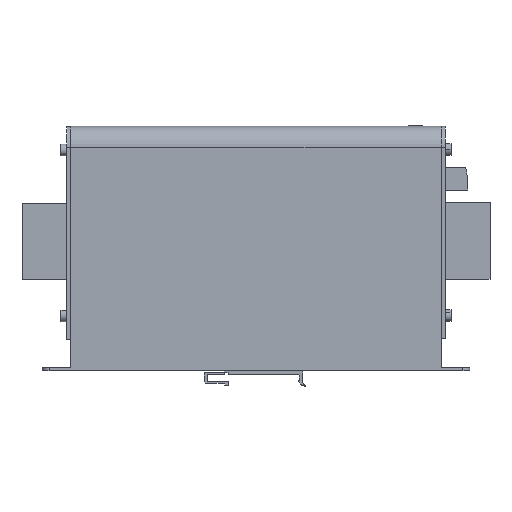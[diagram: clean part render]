
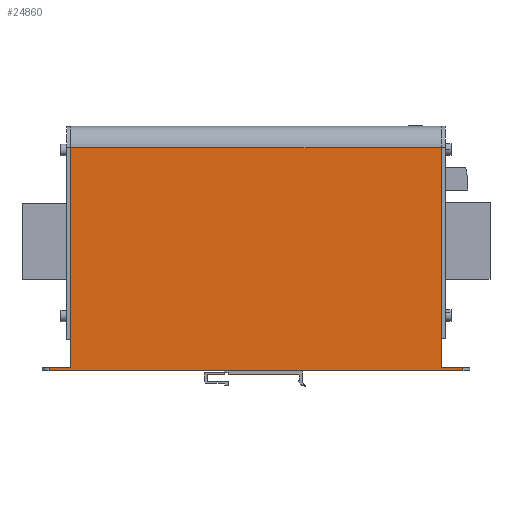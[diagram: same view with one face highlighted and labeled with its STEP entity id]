
A CAD part, left-side view. The second image highlights one B-rep face of the part: STEP entity #24860.
In plain terms, the highlighted planar face has unit normal (-1, 0, 0).
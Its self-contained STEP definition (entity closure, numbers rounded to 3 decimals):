
#1484 = LINE ( 'NONE', #96614, #104815 ) ;
#5301 = CARTESIAN_POINT ( 'NONE',  ( -44., 78.5, 105. ) ) ;
#5415 = ORIENTED_EDGE ( 'NONE', *, *, #207034, .F. ) ;
#5701 = PLANE ( 'NONE',  #191934 ) ;
#14143 = CARTESIAN_POINT ( 'NONE',  ( -44., 109., 105. ) ) ;
#14355 = VECTOR ( 'NONE', #30041, 1000. ) ;
#15332 = VERTEX_POINT ( 'NONE', #86306 ) ;
#17903 = CARTESIAN_POINT ( 'NONE',  ( -44., 88.78, 1.5 ) ) ;
#18895 = ORIENTED_EDGE ( 'NONE', *, *, #74930, .F. ) ;
#22228 = ORIENTED_EDGE ( 'NONE', *, *, #31128, .T. ) ;
#24240 = ORIENTED_EDGE ( 'NONE', *, *, #28094, .F. ) ;
#24860 = ADVANCED_FACE ( 'NONE', ( #116457 ), #5701, .F. ) ;
#25635 = ORIENTED_EDGE ( 'NONE', *, *, #97483, .F. ) ;
#28094 = EDGE_CURVE ( 'NONE', #104362, #70558, #1484, .T. ) ;
#30041 = DIRECTION ( 'NONE',  ( 0., 0., 1. ) ) ;
#31128 = EDGE_CURVE ( 'NONE', #129755, #15332, #63719, .T. ) ;
#36629 = LINE ( 'NONE', #40717, #97291 ) ;
#38768 = DIRECTION ( 'NONE',  ( 0., 0., 1. ) ) ;
#40184 = CARTESIAN_POINT ( 'NONE',  ( -44., 109., 1.5 ) ) ;
#40717 = CARTESIAN_POINT ( 'NONE',  ( -44., -105.75, -327.14 ) ) ;
#44315 = EDGE_CURVE ( 'NONE', #15332, #184667, #36629, .T. ) ;
#44444 = CARTESIAN_POINT ( 'NONE',  ( -44., -95.5, 1.5 ) ) ;
#46751 = CARTESIAN_POINT ( 'NONE',  ( -44., 78.5, 1.5 ) ) ;
#49983 = LINE ( 'NONE', #66739, #51621 ) ;
#50256 = VECTOR ( 'NONE', #143523, 1000. ) ;
#51621 = VECTOR ( 'NONE', #94959, 1000. ) ;
#54901 = CARTESIAN_POINT ( 'NONE',  ( -44., -105.75, 1.5 ) ) ;
#56259 = EDGE_CURVE ( 'NONE', #129755, #104362, #142843, .T. ) ;
#60627 = EDGE_CURVE ( 'NONE', #140544, #177669, #121831, .T. ) ;
#61664 = DIRECTION ( 'NONE',  ( 0., -1., 0. ) ) ;
#62713 = CARTESIAN_POINT ( 'NONE',  ( -44., 109., 0. ) ) ;
#63719 = LINE ( 'NONE', #62713, #73288 ) ;
#66739 = CARTESIAN_POINT ( 'NONE',  ( -44., 109., 1.5 ) ) ;
#68935 = VECTOR ( 'NONE', #108203, 1000. ) ;
#69502 = DIRECTION ( 'NONE',  ( 0., 1., 0. ) ) ;
#70558 = VERTEX_POINT ( 'NONE', #46751 ) ;
#73288 = VECTOR ( 'NONE', #61664, 1000. ) ;
#74930 = EDGE_CURVE ( 'NONE', #70558, #177669, #84724, .T. ) ;
#79785 = LINE ( 'NONE', #140481, #50256 ) ;
#84724 = LINE ( 'NONE', #5301, #91527 ) ;
#86306 = CARTESIAN_POINT ( 'NONE',  ( -44., -105.75, 0. ) ) ;
#91527 = VECTOR ( 'NONE', #38768, 1000. ) ;
#91652 = CARTESIAN_POINT ( 'NONE',  ( -44., 88.78, 1.5 ) ) ;
#94959 = DIRECTION ( 'NONE',  ( 0., -1., 0. ) ) ;
#96614 = CARTESIAN_POINT ( 'NONE',  ( -44., 109., 1.5 ) ) ;
#97291 = VECTOR ( 'NONE', #164158, 1000. ) ;
#97483 = EDGE_CURVE ( 'NONE', #147085, #184667, #49983, .T. ) ;
#97940 = ORIENTED_EDGE ( 'NONE', *, *, #56259, .F. ) ;
#100811 = DIRECTION ( 'NONE',  ( 1., 0., 0. ) ) ;
#104362 = VERTEX_POINT ( 'NONE', #17903 ) ;
#104815 = VECTOR ( 'NONE', #178221, 1000. ) ;
#107542 = ORIENTED_EDGE ( 'NONE', *, *, #60627, .T. ) ;
#108203 = DIRECTION ( 'NONE',  ( 0., 1., 0. ) ) ;
#116457 = FACE_OUTER_BOUND ( 'NONE', #153914, .T. ) ;
#121831 = LINE ( 'NONE', #14143, #68935 ) ;
#129755 = VERTEX_POINT ( 'NONE', #143306 ) ;
#140481 = CARTESIAN_POINT ( 'NONE',  ( -44., -95.5, 115. ) ) ;
#140544 = VERTEX_POINT ( 'NONE', #148234 ) ;
#142843 = LINE ( 'NONE', #91652, #14355 ) ;
#143306 = CARTESIAN_POINT ( 'NONE',  ( -44., 88.78, 0. ) ) ;
#143523 = DIRECTION ( 'NONE',  ( 0., 0., -1. ) ) ;
#147085 = VERTEX_POINT ( 'NONE', #44444 ) ;
#148234 = CARTESIAN_POINT ( 'NONE',  ( -44., -95.5, 105. ) ) ;
#152856 = CARTESIAN_POINT ( 'NONE',  ( -44., 78.5, 105. ) ) ;
#153914 = EDGE_LOOP ( 'NONE', ( #97940, #22228, #158989, #25635, #5415, #107542, #18895, #24240 ) ) ;
#158989 = ORIENTED_EDGE ( 'NONE', *, *, #44315, .T. ) ;
#164158 = DIRECTION ( 'NONE',  ( 0., 0., 1. ) ) ;
#177669 = VERTEX_POINT ( 'NONE', #152856 ) ;
#178221 = DIRECTION ( 'NONE',  ( 0., -1., 0. ) ) ;
#184667 = VERTEX_POINT ( 'NONE', #54901 ) ;
#191934 = AXIS2_PLACEMENT_3D ( 'NONE', #40184, #100811, #69502 ) ;
#207034 = EDGE_CURVE ( 'NONE', #140544, #147085, #79785, .T. ) ;
